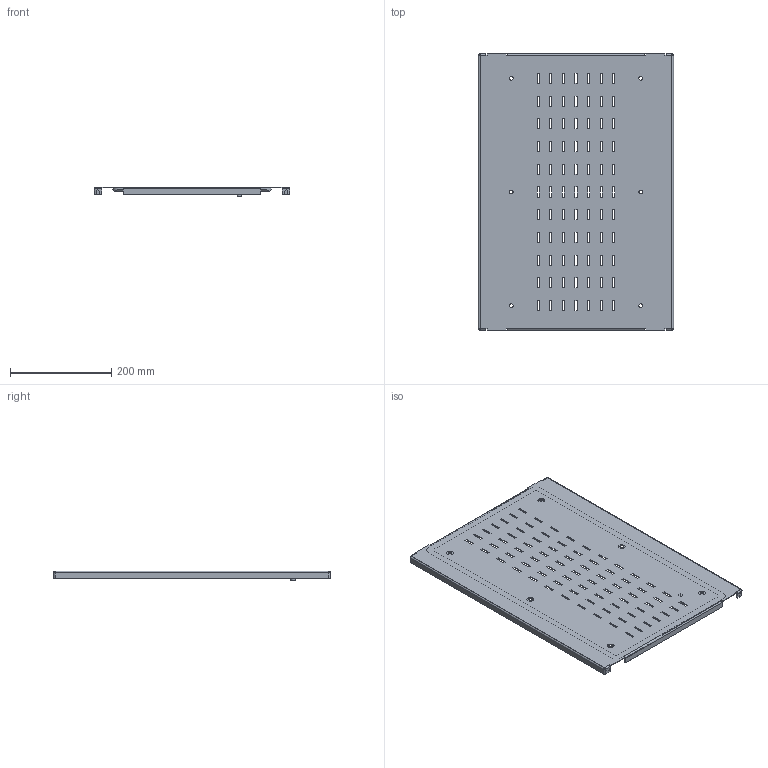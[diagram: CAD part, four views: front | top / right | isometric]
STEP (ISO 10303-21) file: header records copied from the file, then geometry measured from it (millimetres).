
FILE_DESCRIPTION(('STEP AP203'), '1');
FILE_NAME('Ïàíåëü ëèöåâàÿ ïåðôîðèðîâàííàÿ 550õ400 ìì OptiBox M 419540 ÊÝÀÇ', '', ('UNSPECIFIED'), ('UNSPECIFIED'), 'C3D Converter', 'C3D Toolkit', '');
FILE_SCHEMA(('CONFIG_CONTROL_DESIGN'));
Length unit declared in the file: millimetre
Bounding box: 386.4 x 547 x 18.9 mm (x, y, z)
Volume: 431010.9 mm3; surface area: 512446.7 mm2
Topology: 3 solids, 3 shells, 482 faces, 1321 edges, 854 vertices
Faces by surface type: plane 419, cylinder 55, bspline 8
Full cylindrical faces by diameter (mm): 0.75 x1, 1 x1, 5 x2, 7.3 x6, 8 x1, 9.3 x1, 13 x1, 13.5 x6
Entity records: 16360 total; most frequent: CARTESIAN_POINT 3875, ORIENTED_EDGE 2604, DIRECTION 2294, EDGE_CURVE 1302, LINE 1188, VECTOR 1188, VERTEX_POINT 854, EDGE_LOOP 682
